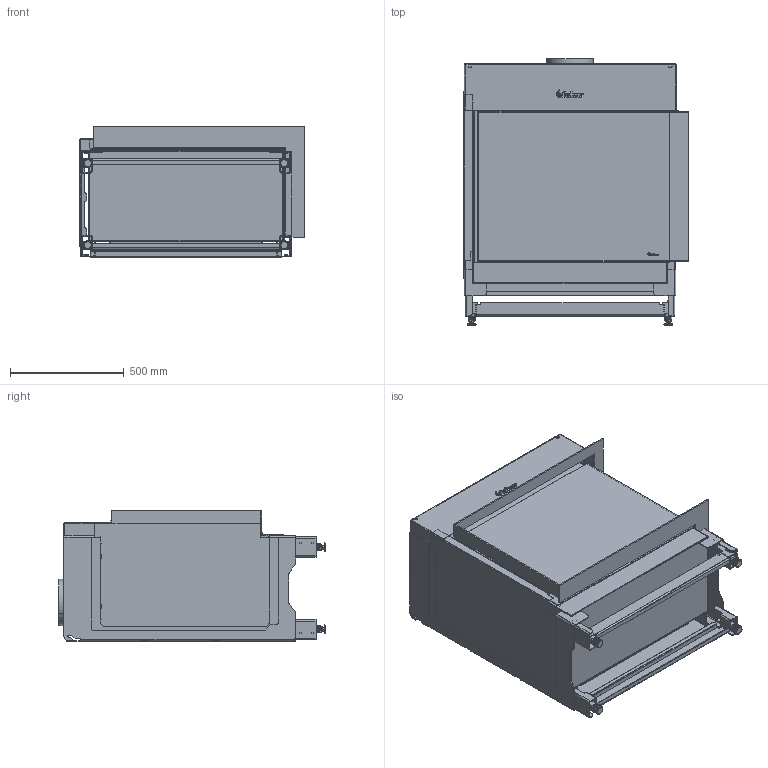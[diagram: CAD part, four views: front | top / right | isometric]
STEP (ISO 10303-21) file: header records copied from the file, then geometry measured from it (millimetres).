
FILE_DESCRIPTION (( 'STEP AP214' ), '1' );
FILE_NAME ('Faber MatriX Hybrid 800x650 IIR.STEP', '2022-06-01T07:37:36', ( '' ), ( '' ), 'SwSTEP 2.0', 'SolidWorks 2021', '' );
FILE_SCHEMA (( 'AUTOMOTIVE_DESIGN' ));
Length unit declared in the file: millimetre
Products named in the file (1): Faber MatriX Hybrid 800x650 IIR
Bounding box: 987.5 x 1173.2 x 574 mm (x, y, z)
Volume: 18522631.7 mm3; surface area: 15156761.4 mm2
Topology: 45 solids, 49 shells, 2600 faces, 6716 edges, 4180 vertices
Faces by surface type: plane 1556, cylinder 799, bspline 115, cone 108, torus 22
Entity records: 97505 total; most frequent: CARTESIAN_POINT 34050, ORIENTED_EDGE 13374, DIRECTION 12770, EDGE_CURVE 6687, VECTOR 4518, LINE 4518, VERTEX_POINT 4175, AXIS2_PLACEMENT_3D 4126
